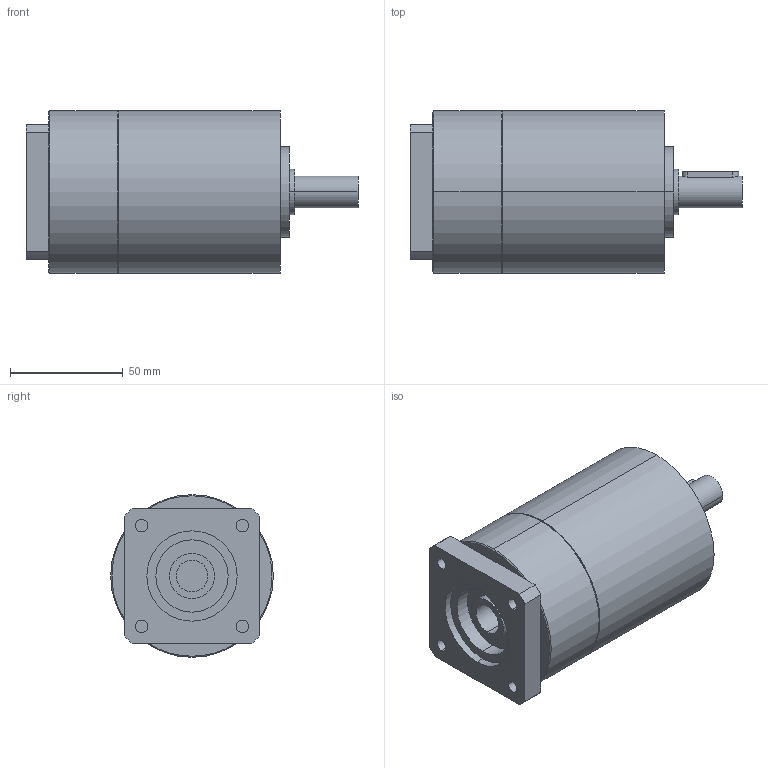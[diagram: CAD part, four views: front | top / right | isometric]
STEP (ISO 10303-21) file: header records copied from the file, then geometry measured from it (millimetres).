
FILE_DESCRIPTION(('CoCreate Modeling STEP Export'),'2;1');
FILE_NAME('GPT75_ig-9-12-16-20-25-28-35-40-50-70-100_14_B14T_14_P03.stp','2014-08-27T13:16:52',(''),(''),'CoCreate Modeling STEP processor for AP214 (Solid Model)','CoCreate Modeling 16.00C 25-Feb-2009 (C) Parametric Technology GmbH','');
FILE_SCHEMA(('AUTOMOTIVE_DESIGN { 1 0 10303 214 1 1 1 1 }'));
Length unit declared in the file: millimetre
Products named in the file (2): GPT75_ig-9-12-16-20-25-28-35-40-50-70-100_14_B14T_14_P03
Assembly tree (1 placements, depth 2):
  GPT75_ig-9-12-16-20-25-28-35-40-50-70-100_14_B14T_14_P03
    GPT75_ig-9-12-16-20-25-28-35-40-50-70-100_14_B14T_14_P03
Bounding box: 147 x 72 x 72 mm (x, y, z)
Volume: 447987.6 mm3; surface area: 40352.8 mm2
Topology: 1 solids, 1 shells, 80 faces, 182 edges, 121 vertices
Faces by surface type: cylinder 42, plane 34, cone 4
Entity records: 2269 total; most frequent: CARTESIAN_POINT 677, ORIENTED_EDGE 364, DIRECTION 268, EDGE_CURVE 182, VERTEX_POINT 121, AXIS2_PLACEMENT_3D 100, EDGE_LOOP 97, FACE_OUTER_BOUND 80
